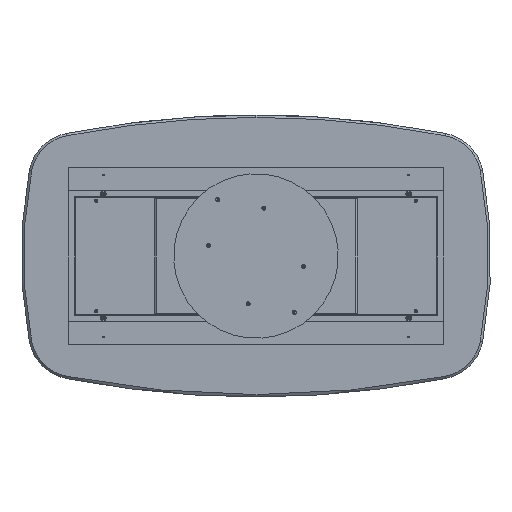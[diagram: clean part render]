
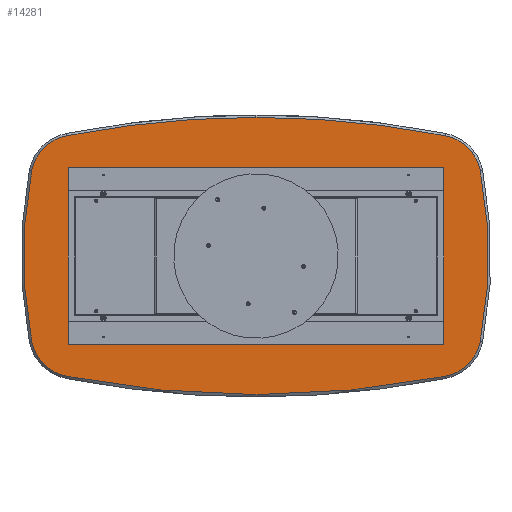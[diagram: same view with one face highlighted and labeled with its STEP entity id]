
A CAD part, front view. The second image highlights one B-rep face of the part: STEP entity #14281.
In plain terms, the highlighted planar face has unit normal (0, -1, 0).
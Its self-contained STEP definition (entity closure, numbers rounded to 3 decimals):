
#377 = FACE_OUTER_BOUND ( 'NONE', #6295, .T. ) ;
#462 = CARTESIAN_POINT ( 'NONE',  ( 804.935, 0., -511.956 ) ) ;
#744 = DIRECTION ( 'NONE',  ( 0., -1., 0. ) ) ;
#823 = DIRECTION ( 'NONE',  ( 0., 0., 1. ) ) ;
#828 = VERTEX_POINT ( 'NONE', #7318 ) ;
#888 = VERTEX_POINT ( 'NONE', #10639 ) ;
#2388 = AXIS2_PLACEMENT_3D ( 'NONE', #13466, #21176, #5896 ) ;
#2415 = VERTEX_POINT ( 'NONE', #462 ) ;
#3595 = VERTEX_POINT ( 'NONE', #5979 ) ;
#3742 = AXIS2_PLACEMENT_3D ( 'NONE', #4242, #11688, #19167 ) ;
#3893 = ORIENTED_EDGE ( 'NONE', *, *, #7570, .T. ) ;
#4242 = CARTESIAN_POINT ( 'NONE',  ( -768.435, 0., 325.495 ) ) ;
#4503 = CARTESIAN_POINT ( 'NONE',  ( -804.935, 0., -511.956 ) ) ;
#5574 = CARTESIAN_POINT ( 'NONE',  ( 0., 0., -3600. ) ) ;
#5586 = ORIENTED_EDGE ( 'NONE', *, *, #13286, .T. ) ;
#5620 = EDGE_CURVE ( 'NONE', #828, #14746, #7816, .T. ) ;
#5896 = DIRECTION ( 'NONE',  ( 0., 0., 1. ) ) ;
#5979 = CARTESIAN_POINT ( 'NONE',  ( 954.894, 0., -362.002 ) ) ;
#6019 = PLANE ( 'NONE',  #8984 ) ;
#6020 = DIRECTION ( 'NONE',  ( 0., -1., 0. ) ) ;
#6191 = CARTESIAN_POINT ( 'NONE',  ( 0., 0., -3600. ) ) ;
#6256 = DIRECTION ( 'NONE',  ( 0., 0., 1. ) ) ;
#6295 = EDGE_LOOP ( 'NONE', ( #12637, #8845, #5586, #18951, #22137, #14824, #16705, #20263, #3893 ) ) ;
#6479 = CARTESIAN_POINT ( 'NONE',  ( -804.935, 0., 511.956 ) ) ;
#6750 = VERTEX_POINT ( 'NONE', #12066 ) ;
#7318 = CARTESIAN_POINT ( 'NONE',  ( -954.894, 0., -362.002 ) ) ;
#7496 = DIRECTION ( 'NONE',  ( 0., 0., 1. ) ) ;
#7570 = EDGE_CURVE ( 'NONE', #12404, #828, #10684, .T. ) ;
#7761 = AXIS2_PLACEMENT_3D ( 'NONE', #6191, #15329, #8023 ) ;
#7816 = CIRCLE ( 'NONE', #19606, 190. ) ;
#7948 = AXIS2_PLACEMENT_3D ( 'NONE', #16885, #6020, #6256 ) ;
#8023 = DIRECTION ( 'NONE',  ( 0., 0., 1. ) ) ;
#8440 = DIRECTION ( 'NONE',  ( 0., -1., 0. ) ) ;
#8845 = ORIENTED_EDGE ( 'NONE', *, *, #15447, .T. ) ;
#8872 = CARTESIAN_POINT ( 'NONE',  ( -768.435, 0., -325.495 ) ) ;
#8984 = AXIS2_PLACEMENT_3D ( 'NONE', #15157, #22778, #15520 ) ;
#10124 = CARTESIAN_POINT ( 'NONE',  ( 768.435, 0., 325.495 ) ) ;
#10615 = EDGE_CURVE ( 'NONE', #11489, #12404, #11178, .T. ) ;
#10639 = CARTESIAN_POINT ( 'NONE',  ( 0., 0., 590. ) ) ;
#10684 = CIRCLE ( 'NONE', #7948, 1884. ) ;
#10717 = CARTESIAN_POINT ( 'NONE',  ( 768.435, 0., -325.495 ) ) ;
#11178 = CIRCLE ( 'NONE', #3742, 190. ) ;
#11262 = AXIS2_PLACEMENT_3D ( 'NONE', #10717, #744, #19906 ) ;
#11397 = CARTESIAN_POINT ( 'NONE',  ( -894., 0., 0. ) ) ;
#11489 = VERTEX_POINT ( 'NONE', #6479 ) ;
#11688 = DIRECTION ( 'NONE',  ( 0., -1., 0. ) ) ;
#12058 = CIRCLE ( 'NONE', #11262, 190. ) ;
#12066 = CARTESIAN_POINT ( 'NONE',  ( 954.894, 0., 362.002 ) ) ;
#12260 = CIRCLE ( 'NONE', #16168, 190. ) ;
#12404 = VERTEX_POINT ( 'NONE', #16945 ) ;
#12626 = CIRCLE ( 'NONE', #18896, 1884. ) ;
#12637 = ORIENTED_EDGE ( 'NONE', *, *, #5620, .T. ) ;
#13286 = EDGE_CURVE ( 'NONE', #2415, #3595, #12058, .T. ) ;
#13453 = EDGE_CURVE ( 'NONE', #888, #11489, #18308, .T. ) ;
#13466 = CARTESIAN_POINT ( 'NONE',  ( 0., 0., 3600. ) ) ;
#13527 = DIRECTION ( 'NONE',  ( 0., -1., 0. ) ) ;
#13978 = CARTESIAN_POINT ( 'NONE',  ( 804.935, 0., 511.956 ) ) ;
#14004 = VERTEX_POINT ( 'NONE', #13978 ) ;
#14281 = ADVANCED_FACE ( 'NONE', ( #377 ), #6019, .F. ) ;
#14700 = DIRECTION ( 'NONE',  ( 0., -1., 0. ) ) ;
#14746 = VERTEX_POINT ( 'NONE', #4503 ) ;
#14824 = ORIENTED_EDGE ( 'NONE', *, *, #20821, .T. ) ;
#14835 = DIRECTION ( 'NONE',  ( 0., 0., 1. ) ) ;
#15157 = CARTESIAN_POINT ( 'NONE',  ( -447., 0., 1800. ) ) ;
#15329 = DIRECTION ( 'NONE',  ( 0., -1., 0. ) ) ;
#15447 = EDGE_CURVE ( 'NONE', #14746, #2415, #20737, .T. ) ;
#15520 = DIRECTION ( 'NONE',  ( 0., 0., 1. ) ) ;
#16168 = AXIS2_PLACEMENT_3D ( 'NONE', #10124, #13527, #823 ) ;
#16705 = ORIENTED_EDGE ( 'NONE', *, *, #13453, .T. ) ;
#16798 = DIRECTION ( 'NONE',  ( 0., -1., 0. ) ) ;
#16885 = CARTESIAN_POINT ( 'NONE',  ( 894., 0., 0. ) ) ;
#16945 = CARTESIAN_POINT ( 'NONE',  ( -954.894, 0., 362.002 ) ) ;
#18308 = CIRCLE ( 'NONE', #7761, 4190. ) ;
#18465 = EDGE_CURVE ( 'NONE', #3595, #6750, #12626, .T. ) ;
#18752 = EDGE_CURVE ( 'NONE', #6750, #14004, #12260, .T. ) ;
#18896 = AXIS2_PLACEMENT_3D ( 'NONE', #11397, #8440, #19567 ) ;
#18951 = ORIENTED_EDGE ( 'NONE', *, *, #18465, .T. ) ;
#18995 = CIRCLE ( 'NONE', #19394, 4190. ) ;
#19167 = DIRECTION ( 'NONE',  ( 0., 0., 1. ) ) ;
#19394 = AXIS2_PLACEMENT_3D ( 'NONE', #5574, #16798, #14835 ) ;
#19567 = DIRECTION ( 'NONE',  ( 0., 0., 1. ) ) ;
#19606 = AXIS2_PLACEMENT_3D ( 'NONE', #8872, #14700, #7496 ) ;
#19906 = DIRECTION ( 'NONE',  ( 0., 0., 1. ) ) ;
#20263 = ORIENTED_EDGE ( 'NONE', *, *, #10615, .T. ) ;
#20737 = CIRCLE ( 'NONE', #2388, 4190. ) ;
#20821 = EDGE_CURVE ( 'NONE', #14004, #888, #18995, .T. ) ;
#21176 = DIRECTION ( 'NONE',  ( 0., -1., 0. ) ) ;
#22137 = ORIENTED_EDGE ( 'NONE', *, *, #18752, .T. ) ;
#22778 = DIRECTION ( 'NONE',  ( 0., 1., 0. ) ) ;
